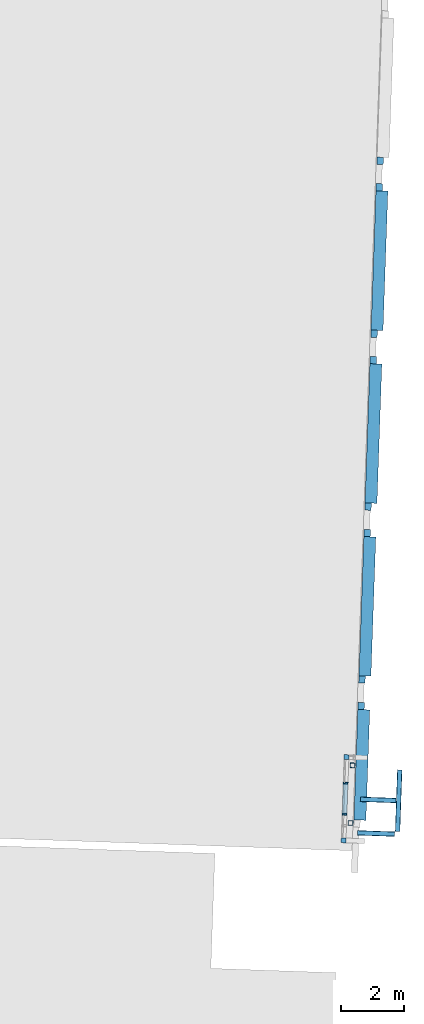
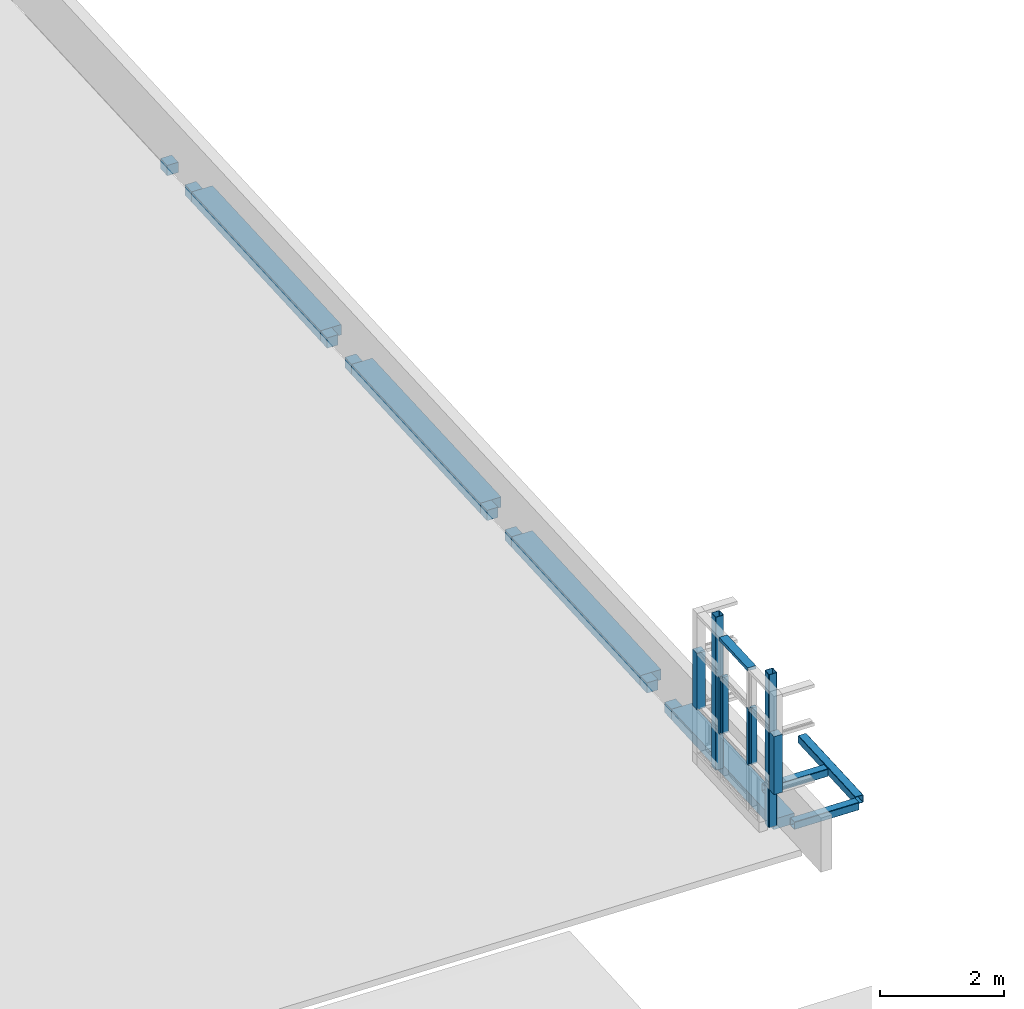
# One storey, part 1 of 8: 11 beams, 5 members, 2 columns, 3 elements without a shape of their own.
"""IFC2X3 building model written with IfcOpenShell, lengths in feet."""

from ifc_helpers import new_model, entity, si_unit, converted_unit, derived_unit, direction, frame, frame_2d, origin, origin_2d_with_axis, place, context, subcontext, project, spatial, polyline, circle_curve, parameter, trimmed, segment, composite_curve, rectangle, outline, extrude, source, transform, mapped, material, type_object, type_shapes, element, aggregate, save


model = new_model("IFC2X3")

# Units and contexts
model_context = context("Model", 3, precision=0.0001, world=origin(), true_north=direction((0.999390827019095, 0.0348994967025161)))
body_context = subcontext(model_context, "Body", "Model", "MODEL_VIEW")
ifc_project = project(units=[converted_unit("LENGTHUNIT", "FOOT", entity("IfcRatioMeasure", 0.3048), si_unit("LENGTHUNIT", "METRE"), dimensions=[1, 0, 0, 0, 0, 0, 0]), converted_unit("AREAUNIT", "SQUARE FOOT", entity("IfcRatioMeasure", 0.09290304), si_unit("AREAUNIT", "SQUARE_METRE"), dimensions=[2, 0, 0, 0, 0, 0, 0]), converted_unit("VOLUMEUNIT", "CUBIC FOOT", entity("IfcRatioMeasure", 0.028316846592), si_unit("VOLUMEUNIT", "CUBIC_METRE"), dimensions=[3, 0, 0, 0, 0, 0, 0]), converted_unit("PLANEANGLEUNIT", "DEGREE", entity("IfcRatioMeasure", 0.0174532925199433), si_unit("PLANEANGLEUNIT", "RADIAN"), dimensions=[0, 0, 0, 0, 0, 0, 0]), si_unit("MASSUNIT", "GRAM", prefix="KILO"), si_unit("TIMEUNIT", "SECOND"), si_unit("FREQUENCYUNIT", "HERTZ"), si_unit("THERMODYNAMICTEMPERATUREUNIT", "DEGREE_CELSIUS"), derived_unit("THERMALTRANSMITTANCEUNIT", [(si_unit("MASSUNIT", "GRAM", prefix="KILO"), 1), (si_unit("THERMODYNAMICTEMPERATUREUNIT", "KELVIN"), -1), (si_unit("TIMEUNIT", "SECOND"), -3)]), derived_unit("VOLUMETRICFLOWRATEUNIT", [(si_unit("LENGTHUNIT", "METRE"), 3), (si_unit("TIMEUNIT", "SECOND"), -1)]), si_unit("ELECTRICCURRENTUNIT", "AMPERE"), si_unit("ELECTRICVOLTAGEUNIT", "VOLT"), si_unit("POWERUNIT", "WATT"), si_unit("FORCEUNIT", "NEWTON"), si_unit("ILLUMINANCEUNIT", "LUX"), si_unit("LUMINOUSFLUXUNIT", "LUMEN"), si_unit("LUMINOUSINTENSITYUNIT", "CANDELA"), derived_unit("USERDEFINED", [(si_unit("MASSUNIT", "GRAM", prefix="KILO"), -1), (si_unit("LENGTHUNIT", "METRE"), -2), (si_unit("TIMEUNIT", "SECOND"), 3), (si_unit("LUMINOUSFLUXUNIT", "LUMEN"), 1)]), derived_unit("LINEARVELOCITYUNIT", [(si_unit("LENGTHUNIT", "METRE"), 1), (si_unit("TIMEUNIT", "SECOND"), -1)]), si_unit("PRESSUREUNIT", "PASCAL"), derived_unit("USERDEFINED", [(si_unit("LENGTHUNIT", "METRE"), -2), (si_unit("MASSUNIT", "GRAM", prefix="KILO"), 1), (si_unit("TIMEUNIT", "SECOND"), -2)])], contexts=[model_context])

# Site, building, storey
site_placement = place(None, frame((892.518771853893, 322.38689265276, 0.00393700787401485), z_axis=(0.0, 0.0, 1.0), x_axis=(0.0348994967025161, 0.999390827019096, 0.0)))
site = spatial("IfcSite", under=ifc_project, at=site_placement, Name="Default", CompositionType="ELEMENT")
building_placement = place(site_placement, origin())
building = spatial("IfcBuilding", under=site, at=building_placement, CompositionType="ELEMENT")
storey_placement = place(building_placement, frame((0.0, 0.0, 607.0)))
storey = spatial("IfcBuildingStorey", under=building, at=storey_placement, Name="Existing Garage - Roof Level", CompositionType="ELEMENT", Elevation=607.0)

# Columns
ifc_material_1 = material(Name="Metal - Steel - ASTM A500 - Grade B - Rectangular and Square")
column_type = type_object("IfcColumnType", Name="HSS6x6x5/16", PredefinedType="COLUMN", material=ifc_material_1)
shared_shape = source(origin(), body_context, "Body", "SweptSolid", [
    extrude(outline(composite_curve([segment(polyline([(-0.201500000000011, -0.249999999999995), (0.201500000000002, -0.249999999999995)]), True, "CONTINUOUS"), segment(trimmed(circle_curve(frame_2d((0.201500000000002, -0.201499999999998), x_axis=(-1.0, 0.0)), 0.0484999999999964), [parameter(90.0000000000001)], [parameter(180.0)], True, "PARAMETER"), True, "CONTINUOUS"), segment(polyline([(0.249999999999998, -0.201499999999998), (0.249999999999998, 0.2015)]), True, "CONTINUOUS"), segment(trimmed(circle_curve(frame_2d((0.201499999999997, 0.2015), x_axis=(-1.0, 0.0)), 0.0485000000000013), [parameter(180.0)], [parameter(270.0)], True, "PARAMETER"), True, "CONTINUOUS"), segment(polyline([(0.201499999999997, 0.250000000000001), (-0.20149999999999, 0.250000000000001)]), True, "CONTINUOUS"), segment(trimmed(circle_curve(frame_2d((-0.20149999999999, 0.201499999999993), x_axis=(-1.0, 0.0)), 0.0485000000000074), [parameter(270.0)], [parameter(360.0)], True, "PARAMETER"), True, "CONTINUOUS"), segment(polyline([(-0.249999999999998, 0.201499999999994), (-0.249999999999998, -0.201500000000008)]), True, "CONTINUOUS"), segment(trimmed(circle_curve(frame_2d((-0.201500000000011, -0.201500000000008), x_axis=(-1.0, 0.0)), 0.048499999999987), [parameter(360.0)], [parameter(89.9999999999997)], True, "PARAMETER"), True, "CONTINUOUS")], self_intersect=False), holes=[composite_curve([segment(trimmed(circle_curve(frame_2d((-0.201500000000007, -0.201500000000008), x_axis=(-1.0, 0.0)), 0.0242499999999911), [parameter(0.0)], [parameter(89.9999999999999)], True, "PARAMETER"), False, "CONTINUOUS"), segment(polyline([(-0.225749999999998, -0.201500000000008), (-0.225749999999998, 0.201500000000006)]), True, "CONTINUOUS"), segment(trimmed(circle_curve(frame_2d((-0.201500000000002, 0.201500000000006), x_axis=(-1.0, 0.0)), 0.0242499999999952), [parameter(270.0)], [parameter(360.0)], True, "PARAMETER"), False, "CONTINUOUS"), segment(polyline([(-0.201500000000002, 0.225750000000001), (0.201499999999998, 0.225750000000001)]), True, "CONTINUOUS"), segment(trimmed(circle_curve(frame_2d((0.201499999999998, 0.201499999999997), x_axis=(-1.0, 0.0)), 0.0242500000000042), [parameter(180.0)], [parameter(270.0)], True, "PARAMETER"), False, "CONTINUOUS"), segment(polyline([(0.225750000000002, 0.201499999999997), (0.225750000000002, -0.201499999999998)]), True, "CONTINUOUS"), segment(trimmed(circle_curve(frame_2d((0.201500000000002, -0.201499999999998), x_axis=(-1.0, 0.0)), 0.0242500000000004), [parameter(90.0000000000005)], [parameter(180.0)], True, "PARAMETER"), False, "CONTINUOUS"), segment(polyline([(0.201500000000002, -0.225749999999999), (-0.201500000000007, -0.225749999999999)]), True, "CONTINUOUS")], self_intersect=False)]), frame((0.0, 0.0, 607.0), z_axis=(0.0, 0.0, 1.0), x_axis=(-1.0, 0.0, 0.0)), (0.0, 0.0, 1.0), 9.875),
])
type_shapes(column_type, [shared_shape])
for number, where, name in (
    (1, (107.343959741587, 236.763953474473, -607.0), "05_HSS-Hollow Structural Section-Column:HSS6x6x5/16"),
    (2, (113.343963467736, 236.763953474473, -607.0), "05_HSS-Hollow Structural Section-Column:HSS6x6x5/16"),
):
    element("IfcColumn", number, at=place(storey_placement, frame(where)), inside=storey, type_object=column_type, material=ifc_material_1, Name=name, ObjectType="HSS6x6x5/16", context=body_context, shape_type="MappedRepresentation", body=[
        mapped(shared_shape, transform((0.0, 0.0, 0.0), scale=1.0)),
    ])

# Beams
beam_1_placement = place(storey_placement, frame((113.343963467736, 231.847286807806, 0.666666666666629), z_axis=(0.0, 0.0, 1.0), x_axis=(-1.0, 0.0, 0.0)))
element("IfcBeam", 3, at=beam_1_placement, inside=storey, material=ifc_material_1, Name="05_HSS-Hollow Structural Section:HSS6x6x5/16", ObjectType="05_HSS-Hollow Structural Section:HSS6x6x5/16", context=body_context, shape_type="SweptSolid", body=[
    extrude(outline(composite_curve([segment(trimmed(circle_curve(frame_2d((-0.201500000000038, -0.20150000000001), x_axis=(1.0, 0.0)), 0.0485), [parameter(180.0)], [parameter(270.0)], True, "PARAMETER"), True, "CONTINUOUS"), segment(polyline([(-0.201500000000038, -0.25), (0.201499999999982, -0.25)]), True, "CONTINUOUS"), segment(trimmed(circle_curve(frame_2d((0.201499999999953, -0.20150000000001), x_axis=(1.0, 0.0)), 0.0485), [parameter(270.0)], [parameter(1.52666624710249e-13)], True, "PARAMETER"), True, "CONTINUOUS"), segment(polyline([(0.249999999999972, -0.20150000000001), (0.249999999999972, 0.20150000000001)]), True, "CONTINUOUS"), segment(trimmed(circle_curve(frame_2d((0.201499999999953, 0.20150000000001), x_axis=(1.0, 0.0)), 0.0485), [parameter(360.0)], [parameter(89.9999999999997)], True, "PARAMETER"), True, "CONTINUOUS"), segment(polyline([(0.201499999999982, 0.25), (-0.201500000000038, 0.25)]), True, "CONTINUOUS"), segment(trimmed(circle_curve(frame_2d((-0.201500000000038, 0.20150000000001), x_axis=(1.0, 0.0)), 0.0485), [parameter(90.0000000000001)], [parameter(180.0)], True, "PARAMETER"), True, "CONTINUOUS"), segment(polyline([(-0.250000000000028, 0.20150000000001), (-0.250000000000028, -0.20150000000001)]), True, "CONTINUOUS")], self_intersect=False), holes=[composite_curve([segment(polyline([(0.201499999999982, -0.225749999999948), (-0.201500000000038, -0.225749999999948)]), True, "CONTINUOUS"), segment(trimmed(circle_curve(frame_2d((-0.201500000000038, -0.20150000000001), x_axis=(1.0, 0.0)), 0.02425), [parameter(180.0)], [parameter(270.0)], True, "PARAMETER"), False, "CONTINUOUS"), segment(polyline([(-0.225750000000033, -0.20150000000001), (-0.225750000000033, 0.20150000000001)]), True, "CONTINUOUS"), segment(trimmed(circle_curve(frame_2d((-0.201500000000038, 0.20150000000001), x_axis=(1.0, 0.0)), 0.02425), [parameter(90.0000000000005)], [parameter(180.0)], True, "PARAMETER"), False, "CONTINUOUS"), segment(polyline([(-0.201500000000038, 0.225750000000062), (0.201499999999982, 0.225750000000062)]), True, "CONTINUOUS"), segment(trimmed(circle_curve(frame_2d((0.201499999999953, 0.20150000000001), x_axis=(1.0, 0.0)), 0.02425), [parameter(0.0)], [parameter(90.0000000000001)], True, "PARAMETER"), False, "CONTINUOUS"), segment(polyline([(0.225749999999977, 0.20150000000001), (0.225749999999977, -0.20150000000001)]), True, "CONTINUOUS"), segment(trimmed(circle_curve(frame_2d((0.201499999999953, -0.20150000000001), x_axis=(1.0, 0.0)), 0.02425), [parameter(270.0)], [parameter(4.07110999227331e-13)], True, "PARAMETER"), False, "CONTINUOUS")], self_intersect=False)]), frame((0.291666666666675, 0.0, -0.25), z_axis=(1.0, 0.0, 0.0), x_axis=(0.0, -1.0, 0.0)), (0.0, 0.0, 1.0), 6.41667039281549),
])
ifc_material_2 = material(Name="Concrete - Cast-in-Place Concrete")
beam_2_placement = place(storey_placement, frame((107.677293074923, 235.80562014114, 0.0)))
element("IfcBeam", 4, at=beam_2_placement, inside=storey, material=ifc_material_2, Name="Concrete-Rectangular Beam:8\" x 15\"w", ObjectType="Concrete-Rectangular Beam:8\" x 15\"w", context=body_context, shape_type="SweptSolid", body=[
    extrude(rectangle(XDim=0.666666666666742, YDim=1.25, at=frame_2d((0.0, 5.6843418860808e-14), x_axis=(1.0, 0.0))), frame((0.0, 0.0, -0.333333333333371), z_axis=(1.0, 0.0, 0.0), x_axis=(0.0, 0.0, -1.0)), (0.0, 0.0, 1.0), 11.4999999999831),
])
beam_3_placement = place(storey_placement, frame((119.177293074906, 236.097286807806, 0.0)))
element("IfcBeam", 5, at=beam_3_placement, inside=storey, material=ifc_material_2, Name="Concrete-Rectangular Beam:8\" x 8\"w", ObjectType="Concrete-Rectangular Beam:8\" x 8\"w", context=body_context, shape_type="SweptSolid", body=[
    extrude(rectangle(XDim=0.666666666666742, YDim=0.666666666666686, at=frame_2d((0.0, 2.8421709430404e-14), x_axis=(1.0, 0.0))), frame((2.74999999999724, 0.0, -0.333333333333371), z_axis=(1.0, 0.0, 0.0), x_axis=(0.0, 0.0, -1.0)), (0.0, 0.0, 1.0), 0.7500000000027),
    extrude(rectangle(XDim=0.666666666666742, YDim=0.666666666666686, at=frame_2d((-2.8421709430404e-14, 0.0), x_axis=(0.0, 1.0))), frame((0.0, 0.0, -0.333333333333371), z_axis=(1.0, 0.0, 0.0), x_axis=(0.0, -1.0, 0.0)), (0.0, 0.0, 1.0), 0.749999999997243),
])
beam_4_placement = place(storey_placement, frame((122.677293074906, 235.80562014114, 0.0)))
element("IfcBeam", 6, at=beam_4_placement, inside=storey, material=ifc_material_2, Name="Concrete-Rectangular Beam:8\" x 15\"w", ObjectType="Concrete-Rectangular Beam:8\" x 15\"w", context=body_context, shape_type="SweptSolid", body=[
    extrude(rectangle(XDim=0.666666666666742, YDim=1.25, at=frame_2d((0.0, 5.6843418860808e-14), x_axis=(1.0, 0.0))), frame((0.0, 0.0, -0.333333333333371), z_axis=(1.0, 0.0, 0.0), x_axis=(0.0, 0.0, -1.0)), (0.0, 0.0, 1.0), 14.5000000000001),
])
beam_5_placement = place(storey_placement, frame((137.177293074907, 236.097286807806, 0.0)))
element("IfcBeam", 7, at=beam_5_placement, inside=storey, material=ifc_material_2, Name="Concrete-Rectangular Beam:8\" x 8\"w", ObjectType="Concrete-Rectangular Beam:8\" x 8\"w", context=body_context, shape_type="SweptSolid", body=[
    extrude(rectangle(XDim=0.666666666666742, YDim=0.666666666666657, at=frame_2d((0.0, -1.4210854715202e-14), x_axis=(1.0, 0.0))), frame((2.7499999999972, 0.0, -0.333333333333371), z_axis=(1.0, 0.0, 0.0), x_axis=(0.0, 0.0, -1.0)), (0.0, 0.0, 1.0), 0.750000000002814),
    extrude(rectangle(XDim=0.666666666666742, YDim=0.666666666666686, at=frame_2d((0.0, 0.0), x_axis=(0.0, 1.0))), frame((0.0, 0.0, -0.333333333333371), z_axis=(1.0, 0.0, 0.0), x_axis=(0.0, -1.0, 0.0)), (0.0, 0.0, 1.0), 0.749999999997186),
])
beam_6_placement = place(storey_placement, frame((140.677293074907, 235.80562014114, 0.0)))
element("IfcBeam", 8, at=beam_6_placement, inside=storey, material=ifc_material_2, Name="Concrete-Rectangular Beam:8\" x 15\"w", ObjectType="Concrete-Rectangular Beam:8\" x 15\"w", context=body_context, shape_type="SweptSolid", body=[
    extrude(rectangle(XDim=0.666666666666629, YDim=1.25, at=frame_2d((0.0, 7.105427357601e-14), x_axis=(1.0, 0.0))), frame((0.0, 0.0, -0.333333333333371), z_axis=(1.0, 0.0, 0.0), x_axis=(0.0, 0.0, -1.0)), (0.0, 0.0, 1.0), 14.5),
])
beam_7_placement = place(storey_placement, frame((154.510626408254, 236.097286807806, 0.0)))
element("IfcBeam", 9, at=beam_7_placement, inside=storey, material=ifc_material_2, Name="Concrete-Rectangular Beam:8\" x 8\"w", ObjectType="Concrete-Rectangular Beam:8\" x 8\"w", context=body_context, shape_type="SweptSolid", body=[
    extrude(rectangle(XDim=0.666666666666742, YDim=0.666666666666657, at=frame_2d((0.0, 1.4210854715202e-14), x_axis=(1.0, 0.0))), frame((3.41666666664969, 0.0, -0.333333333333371), z_axis=(1.0, 0.0, 0.0), x_axis=(0.0, 0.0, -1.0)), (0.0, 0.0, 1.0), 0.750000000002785),
    extrude(rectangle(XDim=0.666666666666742, YDim=0.666666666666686, at=frame_2d((0.0, -2.8421709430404e-14), x_axis=(1.0, 0.0))), frame((0.666666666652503, 0.0, -0.333333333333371), z_axis=(1.0, 0.0, 0.0), x_axis=(0.0, 0.0, -1.0)), (0.0, 0.0, 1.0), 0.749999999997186),
])
beam_8_placement = place(storey_placement, frame((158.677293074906, 235.805620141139, 0.0)))
element("IfcBeam", 10, at=beam_8_placement, inside=storey, material=ifc_material_2, Name="Concrete-Rectangular Beam:8\" x 15\"w", ObjectType="Concrete-Rectangular Beam:8\" x 15\"w", context=body_context, shape_type="SweptSolid", body=[
    extrude(rectangle(XDim=0.666666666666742, YDim=1.25000000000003, at=frame_2d((0.0, 4.2632564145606e-14), x_axis=(1.0, 0.0))), frame((0.0, 0.0, -0.333333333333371), z_axis=(1.0, 0.0, 0.0), x_axis=(0.0, 0.0, -1.0)), (0.0, 0.0, 1.0), 14.5),
])
beam_9_placement = place(storey_placement, frame((173.177293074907, 236.097286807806, 0.0)))
element("IfcBeam", 11, at=beam_9_placement, inside=storey, material=ifc_material_2, Name="Concrete-Rectangular Beam:8\" x 8\"w", ObjectType="Concrete-Rectangular Beam:8\" x 8\"w", context=body_context, shape_type="SweptSolid", body=[
    extrude(rectangle(XDim=0.666666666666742, YDim=0.666666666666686, at=origin_2d_with_axis()), frame((2.74999999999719, 0.0, -0.333333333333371), z_axis=(1.0, 0.0, 0.0), x_axis=(0.0, 0.0, -1.0)), (0.0, 0.0, 1.0), 0.750000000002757),
    extrude(rectangle(XDim=0.666666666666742, YDim=0.666666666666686, at=frame_2d((0.0, 0.0), x_axis=(0.0, 1.0))), frame((0.0, 0.0, -0.333333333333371), z_axis=(1.0, 0.0, 0.0), x_axis=(0.0, -1.0, 0.0)), (0.0, 0.0, 1.0), 0.749999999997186),
])
beam_10_placement = place(storey_placement, frame((106.343959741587, 231.847286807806, 0.666666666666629), z_axis=(0.0, 0.0, 1.0), x_axis=(0.0, 1.0, 0.0)))
element("IfcBeam", 12, at=beam_10_placement, inside=storey, material=ifc_material_1, Name="05_HSS-Hollow Structural Section:HSS6x6x5/16", ObjectType="05_HSS-Hollow Structural Section:HSS6x6x5/16", context=body_context, shape_type="SweptSolid", body=[
    extrude(outline(composite_curve([segment(trimmed(circle_curve(frame_2d((-0.20150000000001, -0.20150000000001), x_axis=(1.0, 0.0)), 0.0485), [parameter(180.0)], [parameter(270.0)], True, "PARAMETER"), True, "CONTINUOUS"), segment(polyline([(-0.20150000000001, -0.25), (0.201499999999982, -0.25)]), True, "CONTINUOUS"), segment(trimmed(circle_curve(frame_2d((0.201499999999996, -0.20150000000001), x_axis=(1.0, 0.0)), 0.0485), [parameter(270.0)], [parameter(1.52666624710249e-13)], True, "PARAMETER"), True, "CONTINUOUS"), segment(polyline([(0.249999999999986, -0.20150000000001), (0.249999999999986, 0.20150000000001)]), True, "CONTINUOUS"), segment(trimmed(circle_curve(frame_2d((0.201499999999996, 0.20150000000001), x_axis=(1.0, 0.0)), 0.0485), [parameter(360.0)], [parameter(89.9999999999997)], True, "PARAMETER"), True, "CONTINUOUS"), segment(polyline([(0.201499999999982, 0.25), (-0.20150000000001, 0.25)]), True, "CONTINUOUS"), segment(trimmed(circle_curve(frame_2d((-0.20150000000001, 0.20150000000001), x_axis=(1.0, 0.0)), 0.0485), [parameter(90.0000000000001)], [parameter(180.0)], True, "PARAMETER"), True, "CONTINUOUS"), segment(polyline([(-0.250000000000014, 0.20150000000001), (-0.250000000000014, -0.20150000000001)]), True, "CONTINUOUS")], self_intersect=False), holes=[composite_curve([segment(polyline([(0.201499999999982, -0.225749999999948), (-0.20150000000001, -0.225749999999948)]), True, "CONTINUOUS"), segment(trimmed(circle_curve(frame_2d((-0.20150000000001, -0.20150000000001), x_axis=(1.0, 0.0)), 0.02425), [parameter(180.0)], [parameter(270.0)], True, "PARAMETER"), False, "CONTINUOUS"), segment(polyline([(-0.225750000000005, -0.20150000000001), (-0.225750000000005, 0.20150000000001)]), True, "CONTINUOUS"), segment(trimmed(circle_curve(frame_2d((-0.20150000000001, 0.20150000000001), x_axis=(1.0, 0.0)), 0.02425), [parameter(90.0000000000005)], [parameter(180.0)], True, "PARAMETER"), False, "CONTINUOUS"), segment(polyline([(-0.20150000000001, 0.225750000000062), (0.201499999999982, 0.225750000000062)]), True, "CONTINUOUS"), segment(trimmed(circle_curve(frame_2d((0.201499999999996, 0.20150000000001), x_axis=(1.0, 0.0)), 0.02425), [parameter(0.0)], [parameter(90.0000000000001)], True, "PARAMETER"), False, "CONTINUOUS"), segment(polyline([(0.225749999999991, 0.20150000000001), (0.225749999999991, -0.20150000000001)]), True, "CONTINUOUS"), segment(trimmed(circle_curve(frame_2d((0.201499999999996, -0.20150000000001), x_axis=(1.0, 0.0)), 0.02425), [parameter(270.0)], [parameter(4.07110999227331e-13)], True, "PARAMETER"), False, "CONTINUOUS")], self_intersect=False)]), frame((0.291666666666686, 0.0, -0.25), z_axis=(1.0, 0.0, 0.0), x_axis=(0.0, -1.0, 0.0)), (0.0, 0.0, 1.0), 3.86771738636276),
])

# Curtain wall, member
curtain_wall_type = type_object("IfcCurtainWallType", Name="Curtain Wall:(Existing) Curtainwall - Blank", PredefinedType="NOTDEFINED")
curtain_wall_1_placement = place(storey_placement, frame((0.0, 0.0, -607.0)))
curtain_wall_1 = element("IfcCurtainWall", 13, at=curtain_wall_1_placement, inside=storey, type_object=curtain_wall_type, Name="Curtain Wall:(Existing) Curtainwall - Blank", ObjectType="Curtain Wall:(Existing) Curtainwall - Blank")
ifc_material_3 = material(Name="Metal - Aluminum")
member_1_placement = place(curtain_wall_1_placement, frame((0.0, 0.0, 607.0)))
member_1 = element("IfcMember", 14, at=member_1_placement, material=ifc_material_3, Name="Curtain Wall:(Existing) Curtainwall - Blank", ObjectType="Curtain Wall:(Existing) Curtainwall - Blank", context=body_context, shape_type="SweptSolid", body=[
    extrude(rectangle(XDim=0.5, YDim=0.5, at=origin_2d_with_axis()), frame((105.510626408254, 237.43062014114, 3.5), z_axis=(0.0, 0.0, 1.0), x_axis=(-1.0, 0.0, 0.0)), (0.0, 0.0, 1.0), 3.75),
])
aggregate(curtain_wall_1, [member_1])

# Curtain wall, members
curtain_wall_2_placement = place(storey_placement, frame((0.0, 0.0, -607.0)))
curtain_wall_2 = element("IfcCurtainWall", 15, at=curtain_wall_2_placement, inside=storey, type_object=curtain_wall_type, Name="Curtain Wall:(Existing) Curtainwall - Blank", ObjectType="Curtain Wall:(Existing) Curtainwall - Blank")
member_2_placement = place(curtain_wall_2_placement, frame((0.0, 0.0, 607.0)))
member_2 = element("IfcMember", 16, at=member_2_placement, material=ifc_material_3, Name="Curtain Wall:(Existing) Curtainwall - Blank", ObjectType="Curtain Wall:(Existing) Curtainwall - Blank", context=body_context, shape_type="SweptSolid", body=[
    extrude(outline(polyline([(-0.136718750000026, -0.18750000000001), (0.0716145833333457, -0.18750000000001), (0.0716145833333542, -0.12500000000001), (-0.00651041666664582, -0.124999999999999), (-0.00651041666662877, 0.0), (0.0716145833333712, 0.0), (0.0716145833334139, 0.31249999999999), (-0.136718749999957, 0.312500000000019), (-0.136718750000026, -0.18750000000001)])), frame((111.448128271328, 237.49312014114, 9.69661458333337), z_axis=(-1.0, 0.0, 0.0), x_axis=(0.0, 0.0, -1.0)), (0.0, 0.0, 1.0), 3.20833333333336),
])
member_3_placement = place(curtain_wall_2_placement, frame((0.0, 0.0, 607.0)))
member_3 = element("IfcMember", 17, at=member_3_placement, material=ifc_material_3, Name="Curtain Wall:(Existing) Curtainwall - Blank", ObjectType="Curtain Wall:(Existing) Curtainwall - Blank", context=body_context, shape_type="SweptSolid", body=[
    extrude(outline(polyline([(-0.104166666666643, -0.166666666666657), (0.104166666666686, -0.166666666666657), (0.104166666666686, -0.104166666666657), (0.0260416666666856, -0.104166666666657), (0.0260416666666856, 0.0208333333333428), (0.1041666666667, 0.0208333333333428), (0.1041666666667, 0.333333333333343), (-0.104166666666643, 0.333333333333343), (-0.104166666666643, 0.0208333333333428), (-0.026041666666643, 0.0208333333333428), (-0.026041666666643, -0.104166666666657), (-0.104166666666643, -0.104166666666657), (-0.104166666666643, -0.166666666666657)])), frame((111.448128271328, 237.513953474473, 3.60416666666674), z_axis=(0.0, 0.0, 1.0), x_axis=(-1.0, 0.0, 0.0)), (0.0, 0.0, 1.0), 3.64583333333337),
])
member_4_placement = place(curtain_wall_2_placement, frame((0.0, 0.0, 607.0)))
member_4 = element("IfcMember", 18, at=member_4_placement, material=ifc_material_3, Name="Curtain Wall:(Existing) Curtainwall - Blank", ObjectType="Curtain Wall:(Existing) Curtainwall - Blank", context=body_context, shape_type="SweptSolid", body=[
    extrude(outline(polyline([(-0.104166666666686, -0.166666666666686), (0.104166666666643, -0.166666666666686), (0.104166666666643, -0.104166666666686), (0.026041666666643, -0.104166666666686), (0.026041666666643, 0.0208333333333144), (0.104166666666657, 0.0208333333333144), (0.104166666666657, 0.333333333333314), (-0.104166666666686, 0.333333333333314), (-0.104166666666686, 0.0208333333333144), (-0.0260416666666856, 0.0208333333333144), (-0.0260416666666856, -0.104166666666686), (-0.104166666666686, -0.104166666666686), (-0.104166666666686, -0.166666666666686)])), frame((108.239794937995, 237.513953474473, 3.60416666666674), z_axis=(0.0, 0.0, 1.0), x_axis=(-1.0, 0.0, 0.0)), (0.0, 0.0, 1.0), 3.64583333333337),
])
aggregate(curtain_wall_2, [member_2, member_3, member_4])

# Curtain wall, member
curtain_wall_3_placement = place(storey_placement, frame((0.0, 0.0, -607.0)))
curtain_wall_3 = element("IfcCurtainWall", 19, at=curtain_wall_3_placement, inside=storey, type_object=curtain_wall_type, Name="Curtain Wall:(Existing) Curtainwall - Blank", ObjectType="Curtain Wall:(Existing) Curtainwall - Blank")
member_5_placement = place(curtain_wall_3_placement, frame((0.0, 0.0, 607.0)))
member_5 = element("IfcMember", 20, at=member_5_placement, material=ifc_material_3, Name="Curtain Wall:(Existing) Curtainwall - Blank", ObjectType="Curtain Wall:(Existing) Curtainwall - Blank", context=body_context, shape_type="SweptSolid", body=[
    extrude(rectangle(XDim=0.5, YDim=0.5, at=origin_2d_with_axis()), frame((114.177296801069, 237.43062014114, 7.25), z_axis=(0.0, 0.0, -1.0), x_axis=(-1.0, 0.0, 0.0)), (0.0, 0.0, 1.0), 3.64583333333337),
])
aggregate(curtain_wall_3, [member_5])

# Beam
beam_11_placement = place(storey_placement, frame((109.843961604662, 231.847286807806, 0.666666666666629), z_axis=(0.0, 0.0, 1.0), x_axis=(0.0, 1.0, 0.0)))
element("IfcBeam", 21, at=beam_11_placement, inside=storey, material=ifc_material_1, Name="05_HSS-Hollow Structural Section:HSS6x6x5/16", ObjectType="05_HSS-Hollow Structural Section:HSS6x6x5/16", context=body_context, shape_type="SweptSolid", body=[
    extrude(outline(composite_curve([segment(trimmed(circle_curve(frame_2d((-0.201499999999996, -0.20150000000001), x_axis=(1.0, 0.0)), 0.0485), [parameter(180.0)], [parameter(270.0)], True, "PARAMETER"), True, "CONTINUOUS"), segment(polyline([(-0.201499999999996, -0.25), (0.201499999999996, -0.25)]), True, "CONTINUOUS"), segment(trimmed(circle_curve(frame_2d((0.20150000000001, -0.20150000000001), x_axis=(1.0, 0.0)), 0.0485), [parameter(270.0)], [parameter(1.52666624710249e-13)], True, "PARAMETER"), True, "CONTINUOUS"), segment(polyline([(0.25, -0.20150000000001), (0.25, 0.20150000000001)]), True, "CONTINUOUS"), segment(trimmed(circle_curve(frame_2d((0.20150000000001, 0.20150000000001), x_axis=(1.0, 0.0)), 0.0485), [parameter(360.0)], [parameter(89.9999999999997)], True, "PARAMETER"), True, "CONTINUOUS"), segment(polyline([(0.201499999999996, 0.25), (-0.201499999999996, 0.25)]), True, "CONTINUOUS"), segment(trimmed(circle_curve(frame_2d((-0.201499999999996, 0.20150000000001), x_axis=(1.0, 0.0)), 0.0485), [parameter(90.0000000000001)], [parameter(180.0)], True, "PARAMETER"), True, "CONTINUOUS"), segment(polyline([(-0.25, 0.20150000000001), (-0.25, -0.20150000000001)]), True, "CONTINUOUS")], self_intersect=False), holes=[composite_curve([segment(polyline([(0.201499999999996, -0.225749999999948), (-0.201499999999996, -0.225749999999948)]), True, "CONTINUOUS"), segment(trimmed(circle_curve(frame_2d((-0.201499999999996, -0.20150000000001), x_axis=(1.0, 0.0)), 0.02425), [parameter(180.0)], [parameter(270.0)], True, "PARAMETER"), False, "CONTINUOUS"), segment(polyline([(-0.225749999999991, -0.20150000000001), (-0.225749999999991, 0.20150000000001)]), True, "CONTINUOUS"), segment(trimmed(circle_curve(frame_2d((-0.201499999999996, 0.20150000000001), x_axis=(1.0, 0.0)), 0.02425), [parameter(90.0000000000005)], [parameter(180.0)], True, "PARAMETER"), False, "CONTINUOUS"), segment(polyline([(-0.201499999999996, 0.225750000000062), (0.201499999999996, 0.225750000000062)]), True, "CONTINUOUS"), segment(trimmed(circle_curve(frame_2d((0.20150000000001, 0.20150000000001), x_axis=(1.0, 0.0)), 0.02425), [parameter(0.0)], [parameter(90.0000000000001)], True, "PARAMETER"), False, "CONTINUOUS"), segment(polyline([(0.225750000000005, 0.20150000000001), (0.225750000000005, -0.20150000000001)]), True, "CONTINUOUS"), segment(trimmed(circle_curve(frame_2d((0.20150000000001, -0.20150000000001), x_axis=(1.0, 0.0)), 0.02425), [parameter(270.0)], [parameter(4.07110999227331e-13)], True, "PARAMETER"), False, "CONTINUOUS")], self_intersect=False)]), frame((0.291666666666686, 0.0, -0.25), z_axis=(1.0, 0.0, 0.0), x_axis=(0.0, -1.0, 0.0)), (0.0, 0.0, 1.0), 3.70231700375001),
])

save(model, "model.ifc")
